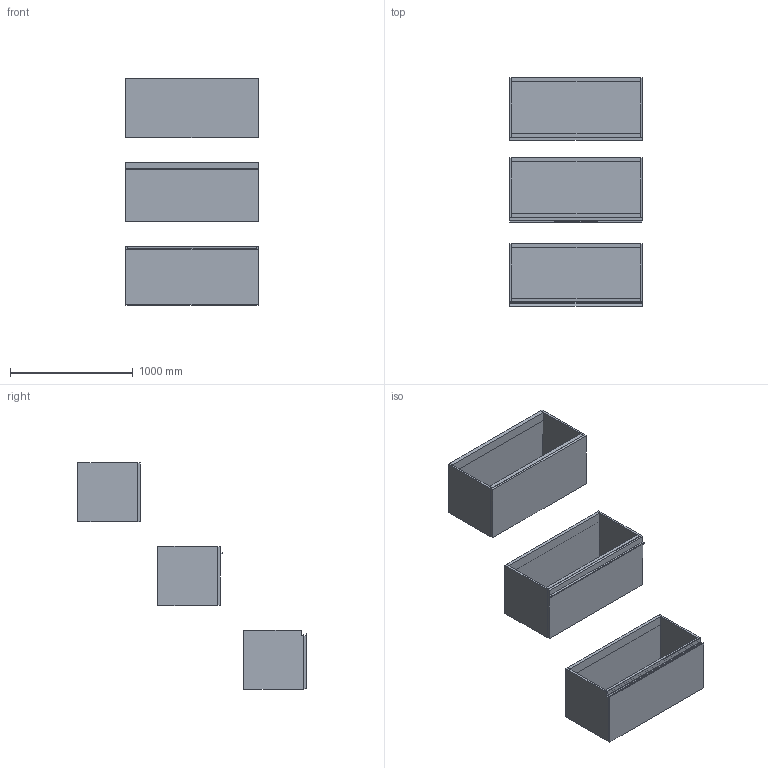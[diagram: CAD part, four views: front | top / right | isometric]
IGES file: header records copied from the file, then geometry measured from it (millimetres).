
Start section: Data from Parasolid IGES Translator 19.0.9, Copyright(c) 2006 Siemens PL M Software. All Rights Reserved.
Global section: file name: noorth-SI-H 48 D 51 W 108_8514.igs; native system: By Siemens PLM Incorporated; preprocessor: XPlus GENERIC/IGES 19.0.9; author: Noname; organization: Noname; date: 20200601.114246; units: metre
Bounding box: 1080 x 1857.1 x 1840.01 mm (x, y, z)
Volume: 88921632.5 mm3; surface area: 13406128.6 mm2
Topology: 23 solids, 23 shells, 196 faces, 418 edges, 258 vertices
Faces by surface type: plane 152, extrusion 16, bspline 16, cylinder 12
